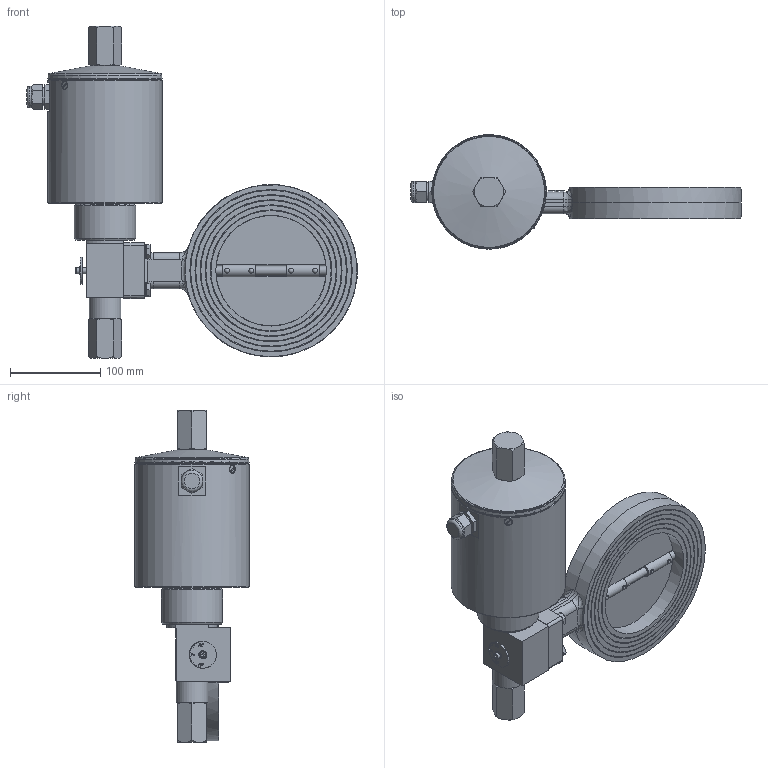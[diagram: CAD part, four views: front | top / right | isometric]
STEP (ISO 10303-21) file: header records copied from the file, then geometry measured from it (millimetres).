
FILE_DESCRIPTION((''),'2;1');
FILE_NAME('G:\CAD-Download\MRK\MRK Ro Ma\DN 125\MRK Ro Ma 125-4.stp','2010-05-26T08:54:35',('da'),(''),'Autodesk Inventor 2008','Autodesk Inventor 2008','');
FILE_SCHEMA(('AUTOMOTIVE_DESIGN { 1 0 10303 214 1 1 1 1 }'));
Length unit declared in the file: millimetre
Products named in the file (1): MRK Ro Ma 125-4
Bounding box: 366.69 x 127 x 368.88 mm (x, y, z)
Surface area: 241267.1 mm2 (no closed solid volume)
Topology: 0 solids, 1 shells, 637 faces, 1645 edges, 1049 vertices
Faces by surface type: plane 392, bspline 81, cylinder 76, cone 72, torus 8, sphere 8
Full cylindrical faces by diameter (mm): 3 x4, 7 x2, 8 x4, 9 x1, 10 x1, 11.63 x4, 20 x1, 23.713 x1, 30 x1, 35 x1, 62 x1, 68 x1, 121.5 x1, 122.5 x1, 123 x1, 124 x2, 127 x1
Entity records: 22853 total; most frequent: CARTESIAN_POINT 7890, ORIENTED_EDGE 3074, DIRECTION 2714, EDGE_CURVE 1537, VERTEX_POINT 1018, AXIS2_PLACEMENT_3D 905, VECTOR 904, LINE 904
